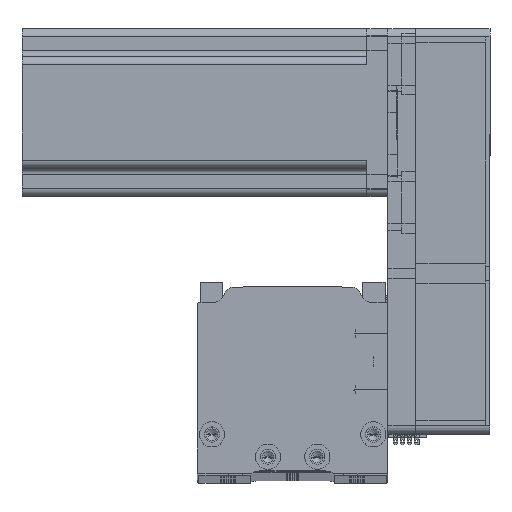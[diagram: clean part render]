
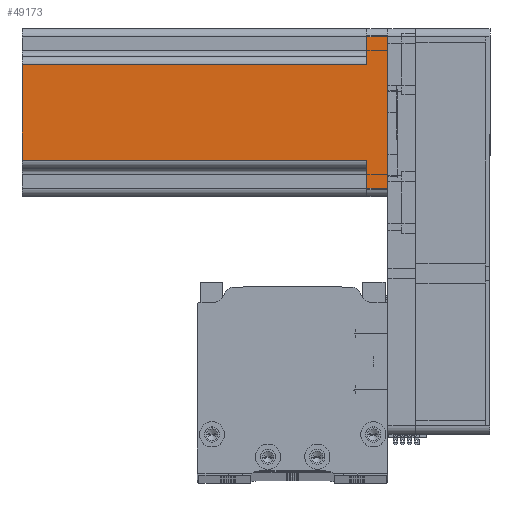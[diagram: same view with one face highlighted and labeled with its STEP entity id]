
A CAD part, top view. The second image highlights one B-rep face of the part: STEP entity #49173.
In plain terms, the highlighted planar face has unit normal (0, 0, 1) as drawn and (0, -1, 0) by its records, which use the part's own axes.
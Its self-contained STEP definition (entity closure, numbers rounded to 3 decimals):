
#156 = DIRECTION ( 'NONE',  ( 1., 0., 0. ) ) ;
#203 = AXIS2_PLACEMENT_3D ( 'NONE', #20710, #55805, #25723 ) ;
#421 = PLANE ( 'NONE',  #203 ) ;
#3158 = EDGE_CURVE ( 'NONE', #44571, #46784, #17942, .T. ) ;
#3454 = DIRECTION ( 'NONE',  ( 0., 0., -1. ) ) ;
#3672 = CARTESIAN_POINT ( 'NONE',  ( 27., -30., 130.7 ) ) ;
#5706 = EDGE_LOOP ( 'NONE', ( #45503, #45561, #50617, #59519, #24244, #51967, #51572, #16825 ) ) ;
#9279 = CARTESIAN_POINT ( 'NONE',  ( 30., -30., 130.7 ) ) ;
#10086 = CARTESIAN_POINT ( 'NONE',  ( 17., -30., 7.5 ) ) ;
#10302 = DIRECTION ( 'NONE',  ( 0., 0., -1. ) ) ;
#10723 = VECTOR ( 'NONE', #16515, 1000. ) ;
#10811 = LINE ( 'NONE', #9279, #22640 ) ;
#10972 = LINE ( 'NONE', #60297, #36105 ) ;
#11422 = CARTESIAN_POINT ( 'NONE',  ( 20., -30., 7.5 ) ) ;
#11726 = EDGE_CURVE ( 'NONE', #48641, #50985, #31095, .T. ) ;
#11864 = EDGE_CURVE ( 'NONE', #34468, #48641, #55407, .T. ) ;
#14844 = CARTESIAN_POINT ( 'NONE',  ( 27., -30., 0. ) ) ;
#16491 = EDGE_CURVE ( 'NONE', #47343, #45094, #35062, .T. ) ;
#16515 = DIRECTION ( 'NONE',  ( -1., 0., 0. ) ) ;
#16825 = ORIENTED_EDGE ( 'NONE', *, *, #3158, .T. ) ;
#17760 = VECTOR ( 'NONE', #23922, 1000. ) ;
#17942 = LINE ( 'NONE', #58763, #56406 ) ;
#18973 = LINE ( 'NONE', #63678, #44129 ) ;
#20710 = CARTESIAN_POINT ( 'NONE',  ( 30., -30., 130.7 ) ) ;
#21024 = EDGE_CURVE ( 'NONE', #50445, #45094, #10972, .T. ) ;
#22640 = VECTOR ( 'NONE', #34298, 1000. ) ;
#23293 = CARTESIAN_POINT ( 'NONE',  ( -17., -30., 130.7 ) ) ;
#23922 = DIRECTION ( 'NONE',  ( 0., 0., 1. ) ) ;
#24101 = LINE ( 'NONE', #11422, #10723 ) ;
#24244 = ORIENTED_EDGE ( 'NONE', *, *, #11864, .T. ) ;
#24937 = CARTESIAN_POINT ( 'NONE',  ( -27., -30., 0. ) ) ;
#25723 = DIRECTION ( 'NONE',  ( -1., 0., 0. ) ) ;
#31095 = LINE ( 'NONE', #3672, #17760 ) ;
#34298 = DIRECTION ( 'NONE',  ( 1., 0., 0. ) ) ;
#34468 = VERTEX_POINT ( 'NONE', #24937 ) ;
#34623 = CARTESIAN_POINT ( 'NONE',  ( -17., -30., 7.5 ) ) ;
#34905 = FACE_OUTER_BOUND ( 'NONE', #5706, .T. ) ;
#35062 = LINE ( 'NONE', #45269, #58631 ) ;
#36105 = VECTOR ( 'NONE', #55257, 1000. ) ;
#37124 = EDGE_CURVE ( 'NONE', #47343, #46784, #10811, .T. ) ;
#40521 = EDGE_CURVE ( 'NONE', #50985, #44571, #24101, .T. ) ;
#42017 = CARTESIAN_POINT ( 'NONE',  ( -27., -30., 7.5 ) ) ;
#42055 = VECTOR ( 'NONE', #156, 1000. ) ;
#44129 = VECTOR ( 'NONE', #3454, 1000. ) ;
#44571 = VERTEX_POINT ( 'NONE', #10086 ) ;
#45094 = VERTEX_POINT ( 'NONE', #34623 ) ;
#45248 = CARTESIAN_POINT ( 'NONE',  ( 30., -30., 0. ) ) ;
#45269 = CARTESIAN_POINT ( 'NONE',  ( -17., -30., 130.7 ) ) ;
#45503 = ORIENTED_EDGE ( 'NONE', *, *, #37124, .F. ) ;
#45561 = ORIENTED_EDGE ( 'NONE', *, *, #16491, .T. ) ;
#46784 = VERTEX_POINT ( 'NONE', #62219 ) ;
#47343 = VERTEX_POINT ( 'NONE', #23293 ) ;
#48641 = VERTEX_POINT ( 'NONE', #14844 ) ;
#49173 = ADVANCED_FACE ( 'NONE', ( #34905 ), #421, .F. ) ;
#50445 = VERTEX_POINT ( 'NONE', #42017 ) ;
#50617 = ORIENTED_EDGE ( 'NONE', *, *, #21024, .F. ) ;
#50985 = VERTEX_POINT ( 'NONE', #58427 ) ;
#51572 = ORIENTED_EDGE ( 'NONE', *, *, #40521, .T. ) ;
#51967 = ORIENTED_EDGE ( 'NONE', *, *, #11726, .T. ) ;
#52222 = EDGE_CURVE ( 'NONE', #50445, #34468, #18973, .T. ) ;
#55257 = DIRECTION ( 'NONE',  ( 1., 0., 0. ) ) ;
#55407 = LINE ( 'NONE', #45248, #42055 ) ;
#55805 = DIRECTION ( 'NONE',  ( 0., 1., 0. ) ) ;
#56406 = VECTOR ( 'NONE', #59227, 1000. ) ;
#58427 = CARTESIAN_POINT ( 'NONE',  ( 27., -30., 7.5 ) ) ;
#58631 = VECTOR ( 'NONE', #10302, 1000. ) ;
#58763 = CARTESIAN_POINT ( 'NONE',  ( 17., -30., 130.7 ) ) ;
#59227 = DIRECTION ( 'NONE',  ( 0., 0., 1. ) ) ;
#59519 = ORIENTED_EDGE ( 'NONE', *, *, #52222, .T. ) ;
#60297 = CARTESIAN_POINT ( 'NONE',  ( -20., -30., 7.5 ) ) ;
#62219 = CARTESIAN_POINT ( 'NONE',  ( 17., -30., 130.7 ) ) ;
#63678 = CARTESIAN_POINT ( 'NONE',  ( -27., -30., 130.7 ) ) ;
